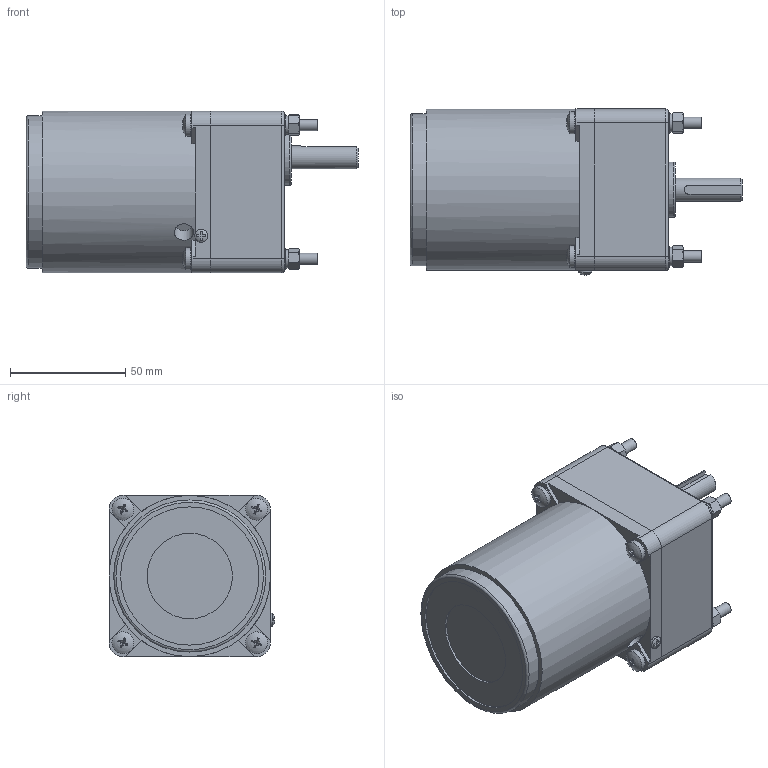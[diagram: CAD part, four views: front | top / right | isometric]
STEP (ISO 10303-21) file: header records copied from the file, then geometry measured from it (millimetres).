
FILE_DESCRIPTION(/* description */ (''),/* implementation_level */ '2;1');
FILE_NAME(/* name */ '70矮箱T-15W普通.stp',/* time_stamp */ '2022-10-31T08:55:43+08:00',/* author */ (''),/* organization */ (''),/* preprocessor_version */ 'ST-DEVELOPER v16.7',/* originating_system */ 'SIEMENS PLM Software NX 1899',/* authorisation */ '');
FILE_SCHEMA (('AP203_CONFIGURATION_CONTROLLED_3D_DESIGN_OF_MECHANICAL_PARTS_AND_ASSEMBLIES_MIM_LF { 1 0 10303 403 2 1 2}'));
Length unit declared in the file: millimetre
Products named in the file (1): yf186188FEB6lc4f
Bounding box: 144 x 71.94 x 70 mm (x, y, z)
Volume: 466566.1 mm3; surface area: 58026.2 mm2
Topology: 22 solids, 23 shells, 389 faces, 907 edges, 583 vertices
Faces by surface type: plane 156, bspline 80, cylinder 74, cone 63, torus 11, sphere 5
Full cylindrical faces by diameter (mm): 2.7 x1, 4.351 x4, 4.826 x4, 5 x4, 5.3 x8, 5.6 x1, 6 x9, 8.3 x1, 9 x8, 9.5 x4, 10 x1, 24 x1, 37 x1, 60 x1, 63 x1, 66 x1, 66.6 x2, 70 x1
Entity records: 12266 total; most frequent: CARTESIAN_POINT 3261, ORIENTED_EDGE 1604, DIRECTION 1389, EDGE_CURVE 802, AXIS2_PLACEMENT_3D 599, VERTEX_POINT 556, EDGE_LOOP 525, ADVANCED_FACE 389
